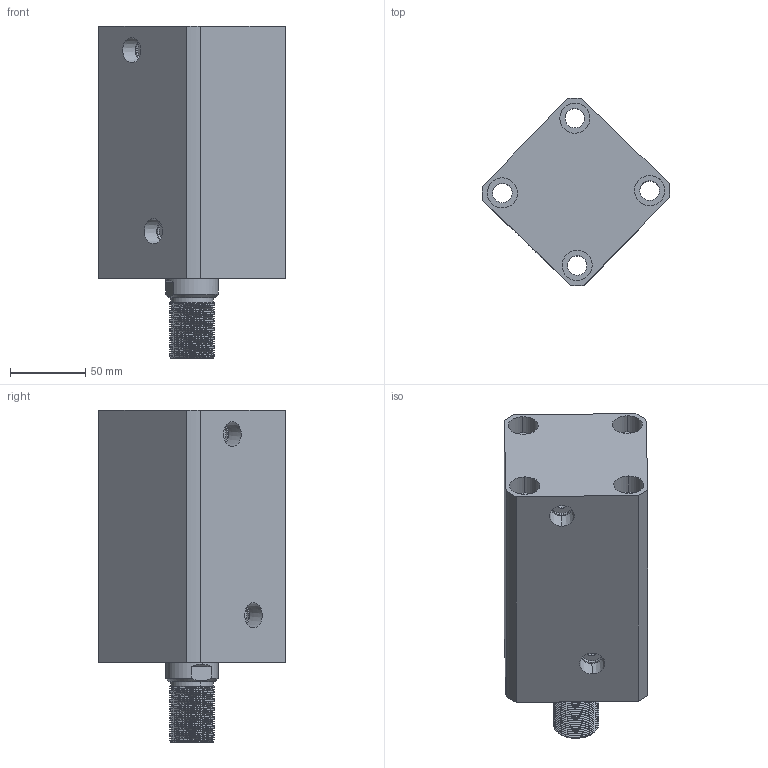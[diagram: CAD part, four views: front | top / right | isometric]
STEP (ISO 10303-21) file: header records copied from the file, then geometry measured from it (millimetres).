
FILE_DESCRIPTION (( 'STEP AP214' ), '1' );
FILE_NAME ('chtb-sd63x100w_asm.STEP', '2018-05-19T02:08:46', ( 'Windows' ), ( 'Microsoft' ), 'SwSTEP 2.0', 'SolidWorks 2015', '' );
FILE_SCHEMA (( 'AUTOMOTIVE_DESIGN' ));
Length unit declared in the file: millimetre
Products named in the file (4): CHTB63X100NBT; CHTB-63QG; chtb-sd63x100w_asm; CHTB63X100WHSG
Assembly tree (3 placements, depth 2):
  chtb-sd63x100w_asm
    CHTB-63QG
    CHTB63X100NBT
    CHTB63X100WHSG
Bounding box: 123.99 x 123.99 x 220 mm (x, y, z)
Volume: 1173294.3 mm3; surface area: 191108 mm2
Topology: 3 solids, 3 shells, 219 faces, 625 edges, 427 vertices
Faces by surface type: cylinder 150, plane 36, bspline 14, cone 13, torus 6
Entity records: 22208 total; most frequent: CARTESIAN_POINT 16953, ORIENTED_EDGE 1242, DIRECTION 881, EDGE_CURVE 621, VERTEX_POINT 427, AXIS2_PLACEMENT_3D 346, EDGE_LOOP 252, ADVANCED_FACE 219
